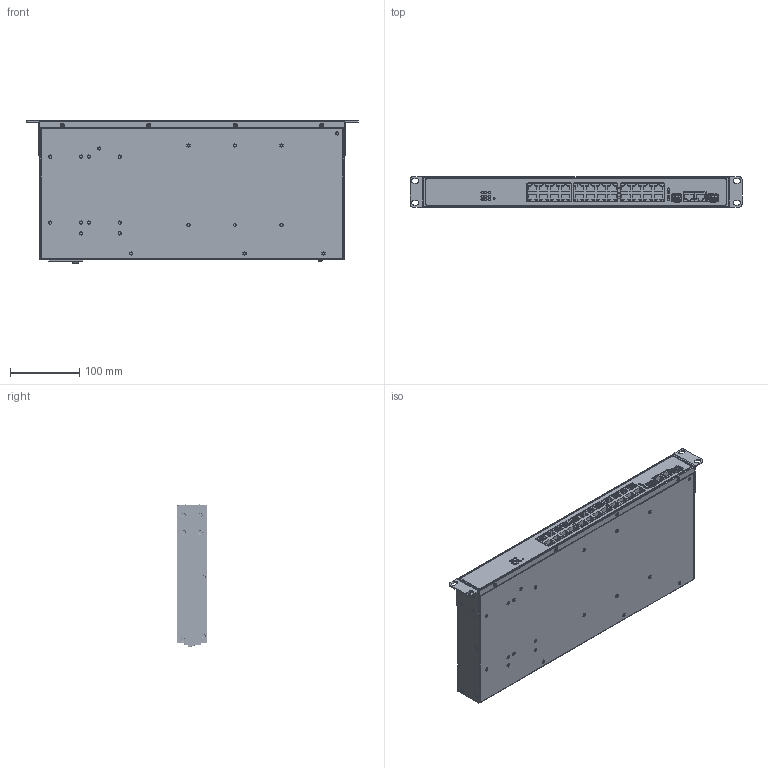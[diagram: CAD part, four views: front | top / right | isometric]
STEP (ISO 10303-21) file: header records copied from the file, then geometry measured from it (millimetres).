
FILE_DESCRIPTION(/* description */ ('STEP AP242 Edition 2','CAx-IF Rec.Pracs.---Representation and Presentation of Product Manufacturing Information (PMI)---4.0---2014-10-13','CAx-IF Rec.Pracs.---3D Tessellated Geometry---0.4---2014-09-14','2;1','CAx-IF Rec.Pracs.---User Defined Attributes---1.5---2016-08-15'),/* implementation_level */ '2;1');
FILE_NAME(/* name */ '692f38e44283c76da00254b1',/* time_stamp */ '2025-12-02T19:07:21Z',/* author */ (''),/* organization */ (''),/* preprocessor_version */ 'ST-DEVELOPER v20',/* originating_system */ 'ONSHAPE BY PTC INC, 1.207',/* authorisation */ ' ');
FILE_SCHEMA (('AP242_MANAGED_MODEL_BASED_3D_ENGINEERING_MIM_LF { 1 0 10303 442 3 1 4 }'));
Products named in the file (61): SD-089 - Rev A - Industrial  24+2 Rack Mount Ethernet Switch; PRT0001_19; PRT0003_1; PRT0016; PRT0010; PRT0001; PRT0001_11; PRT0017_6; PRT0019; PRT0013; PRT0006_1; PRT0001_15; PRT0017_4; PRT0001_20; PRT0001_8; PRT0015; PRT0018; PRT0017_9; PRT0001_3; PRT0017_18; PRT0001_10; PRT0005; PRT0017_7; PRT0001_16; PRT0001_17; PRT0017_10; PRT0017_17; PRT0017_19; PRT0017_15; PRT0017_5; PRT0005_1; PRT0001_2; PRT0007_1; PRT0001_9; PRT0001_4; PRT0017_3; PRT0017_1; PRT0001_14; PRT0001_1; PRT0001_12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
Assembly tree (60 placements, depth 2):
  SD-089 - Rev A - Industrial  24+2 Rack Mount Ethernet Switch
    PRT0001_19
    PRT0003_1
    PRT0016
    PRT0010
    PRT0001
    PRT0001_11
    PRT0017_6
    PRT0019
    PRT0013
    PRT0006_1
    PRT0001_15
    PRT0017_4
    PRT0001_20
    PRT0001_8
    PRT0015
    PRT0018
    PRT0017_9
    PRT0001_3
    PRT0017_18
    PRT0001_10
    PRT0005
    PRT0017_7
    PRT0001_16
    PRT0001_17
    PRT0017_10
    PRT0017_17
    PRT0017_19
    PRT0017_15
    PRT0017_5
    PRT0005_1
    PRT0001_2
    PRT0007_1
    PRT0001_9
    PRT0001_4
    PRT0017_3
    PRT0017_1
    PRT0001_14
    PRT0001_1
    PRT0001_12
    PRT0017_14
    PRT0014
    PRT0006
    PRT0003
    PRT0007
    PRT0015_1
    PRT0017_12
    PRT0001_7
    PRT0017_2
    PRT0017_11
    PRT0017
    PRT0017_16
    PRT0001_5
    PRT0003_2
    PRT0017_13
    PRT0002
    PRT0017_8
    PRT0001_18
    PRT0001_6
    PRT0001_13
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Bounding box: 480 x 44 x 206.83 mm (x, y, z)
Volume: 380808.1 mm3; surface area: 596852.8 mm2
Topology: 60 solids, 80 shells, 6725 faces, 18770 edges, 12182 vertices
Faces by surface type: plane 4564, cylinder 1844, torus 121, cone 114, bspline 45, sphere 37
Full cylindrical faces by diameter (mm): 2 x44, 2.3 x3, 2.449 x21, 2.459 x21, 2.5 x1, 2.9 x8, 3 x27, 3.5 x14, 3.78 x21, 3.99 x42, 4 x59, 4.2 x63, 4.4 x2, 5 x20, 5.5 x2
Entity records: 214832 total; most frequent: CARTESIAN_POINT 40237, ORIENTED_EDGE 35912, DIRECTION 35328, EDGE_CURVE 17956, LINE 13884, VECTOR 13884, VERTEX_POINT 11920, AXIS2_PLACEMENT_3D 10722
